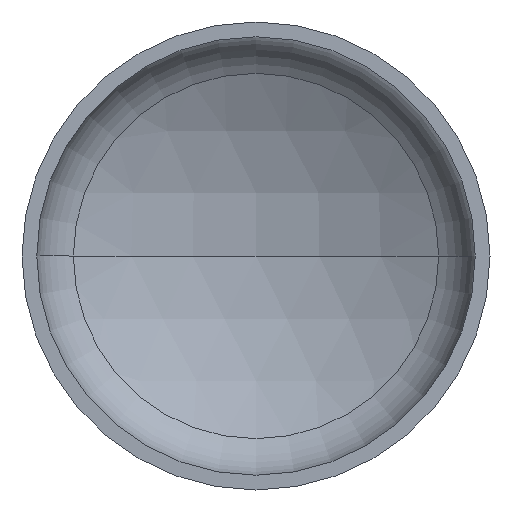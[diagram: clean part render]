
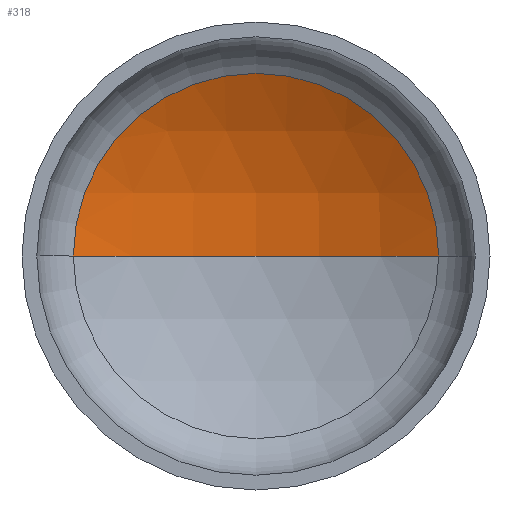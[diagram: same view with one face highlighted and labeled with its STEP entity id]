
A CAD part, front view. The second image highlights one B-rep face of the part: STEP entity #318.
In plain terms, the highlighted spherical face has radius 1520 mm.
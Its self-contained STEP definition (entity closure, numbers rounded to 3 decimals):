
#14 = DIRECTION ( 'NONE',  ( 0., 0., -1. ) ) ;
#16 = DIRECTION ( 'NONE',  ( -1., 0., 0. ) ) ;
#17 = ORIENTED_EDGE ( 'NONE', *, *, #377, .T. ) ;
#23 = CARTESIAN_POINT ( 'NONE',  ( 0., -953.732, 0. ) ) ;
#35 = DIRECTION ( 'NONE',  ( 0., 0., -1. ) ) ;
#40 = VERTEX_POINT ( 'NONE', #332 ) ;
#48 = EDGE_LOOP ( 'NONE', ( #128, #17, #114 ) ) ;
#77 = DIRECTION ( 'NONE',  ( 1., 0., 0. ) ) ;
#78 = DIRECTION ( 'NONE',  ( 0., -1., 0. ) ) ;
#85 = VERTEX_POINT ( 'NONE', #312 ) ;
#90 = CARTESIAN_POINT ( 'NONE',  ( 0., 373.156, 0. ) ) ;
#98 = DIRECTION ( 'NONE',  ( 0., 0., 1. ) ) ;
#114 = ORIENTED_EDGE ( 'NONE', *, *, #398, .T. ) ;
#125 = DIRECTION ( 'NONE',  ( -1., 0., 0. ) ) ;
#128 = ORIENTED_EDGE ( 'NONE', *, *, #354, .F. ) ;
#134 = CARTESIAN_POINT ( 'NONE',  ( 0., -953.732, 0. ) ) ;
#143 = VERTEX_POINT ( 'NONE', #335 ) ;
#147 = DIRECTION ( 'NONE',  ( 1., 0., 0. ) ) ;
#232 = AXIS2_PLACEMENT_3D ( 'NONE', #347, #35, #125 ) ;
#250 = AXIS2_PLACEMENT_3D ( 'NONE', #134, #98, #147 ) ;
#254 = CIRCLE ( 'NONE', #349, 1520. ) ;
#275 = CIRCLE ( 'NONE', #250, 1520. ) ;
#284 = FACE_OUTER_BOUND ( 'NONE', #48, .T. ) ;
#312 = CARTESIAN_POINT ( 'NONE',  ( -741.463, 373.156, 0. ) ) ;
#318 = ADVANCED_FACE ( 'NONE', ( #284 ), #381, .F. ) ;
#332 = CARTESIAN_POINT ( 'NONE',  ( 741.463, 373.156, 0. ) ) ;
#335 = CARTESIAN_POINT ( 'NONE',  ( 0., 566.268, 0. ) ) ;
#347 = CARTESIAN_POINT ( 'NONE',  ( 0., -953.732, 0. ) ) ;
#349 = AXIS2_PLACEMENT_3D ( 'NONE', #23, #14, #16 ) ;
#354 = EDGE_CURVE ( 'NONE', #143, #85, #275, .T. ) ;
#377 = EDGE_CURVE ( 'NONE', #143, #40, #254, .T. ) ;
#381 = SPHERICAL_SURFACE ( 'NONE', #232, 1520. ) ;
#392 = AXIS2_PLACEMENT_3D ( 'NONE', #90, #78, #77 ) ;
#398 = EDGE_CURVE ( 'NONE', #40, #85, #405, .T. ) ;
#405 = CIRCLE ( 'NONE', #392, 741.463 ) ;
